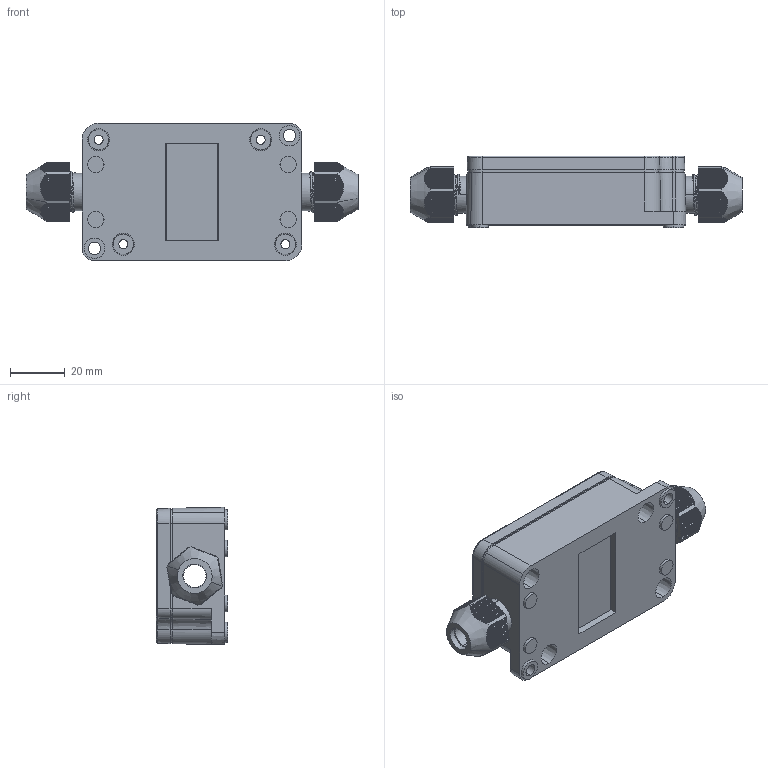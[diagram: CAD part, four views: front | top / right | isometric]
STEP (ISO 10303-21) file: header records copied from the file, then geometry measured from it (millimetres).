
FILE_DESCRIPTION (( 'STEP AP203' ), '1' );
FILE_NAME ('TB-204-A.STEP', '2020-06-08T08:46:58', ( '' ), ( '' ), 'SwSTEP 2.0', 'SolidWorks 2020', '' );
FILE_SCHEMA (( 'CONFIG_CONTROL_DESIGN' ));
Length unit declared in the file: millimetre
Products named in the file (3): TB-204-A; govde; CAP_PG9_cable_gland
Assembly tree (3 placements, depth 2):
  TB-204-A
    govde
    CAP_PG9_cable_gland  x2
Bounding box: 120.86 x 26 x 50 mm (x, y, z)
Volume: 40345.5 mm3; surface area: 40873.7 mm2
Topology: 6 solids, 6 shells, 1202 faces, 3403 edges, 2269 vertices
Faces by surface type: plane 662, cylinder 360, cone 138, bspline 42
Entity records: 42346 total; most frequent: CARTESIAN_POINT 22430, ORIENTED_EDGE 4492, DIRECTION 3483, EDGE_CURVE 2246, VERTEX_POINT 1499, AXIS2_PLACEMENT_3D 1165, VECTOR 1153, LINE 1153
